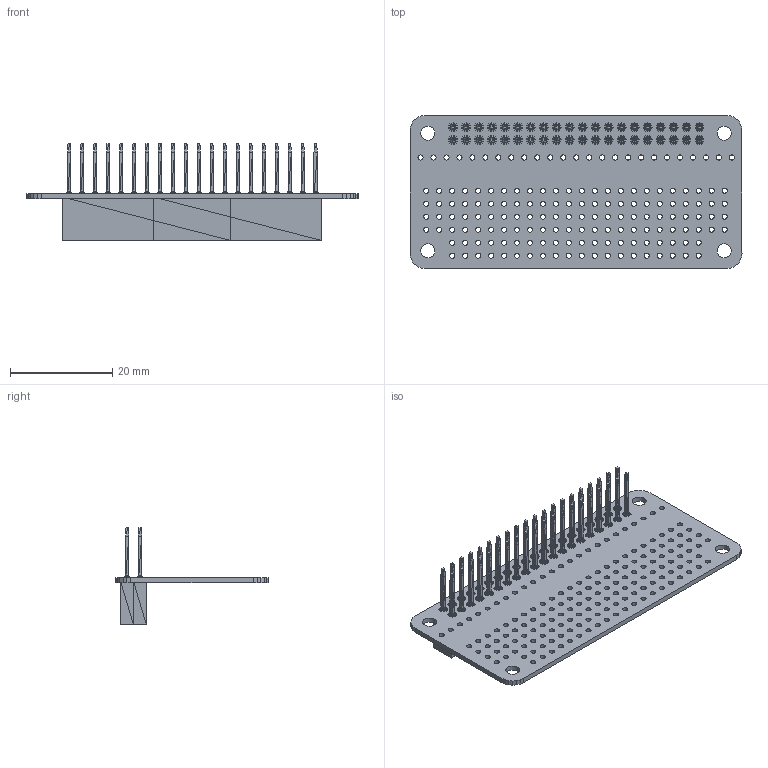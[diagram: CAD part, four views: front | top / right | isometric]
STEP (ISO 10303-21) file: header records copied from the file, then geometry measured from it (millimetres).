
FILE_DESCRIPTION(/* description */ (''),/* implementation_level */ '2;1');
FILE_NAME(/* name */ 'C:/Users/andrew/Desktop/3D Models/breakout-pi-zero-1.0.step',/* time_stamp */ '2018-02-10T15:29:12+00:00',/* author */ ('and101'),/* organization */ (''),/* preprocessor_version */ 'ST-DEVELOPER v16.13',/* originating_system */ 'Autodesk Translation Framework v6.5.0.72',/* authorisation */ '');
FILE_SCHEMA (('AUTOMOTIVE_DESIGN { 1 0 10303 214 3 1 1 }'));
Products named in the file (3): breakout-pi-zero-1.0; Board_breakout-pi-zero-1; 40_way_header
Assembly tree (2 placements, depth 2):
  breakout-pi-zero-1.0
    Board_breakout-pi-zero-1
    40_way_header
Bounding box: 65 x 30 x 18.97 mm (x, y, z)
Volume: 4658.4 mm3; surface area: 9061.2 mm2
Topology: 88 solids, 88 shells, 23388 faces, 35840 edges, 12628 vertices
Faces by surface type: plane 23183, cylinder 205
Full cylindrical faces by diameter (mm): 1 x201, 2.75 x4
Entity records: 465263 total; most frequent: DIRECTION 83446, CARTESIAN_POINT 71861, ORIENTED_EDGE 71680, EDGE_CURVE 35840, LINE 35020, VECTOR 35020, AXIS2_PLACEMENT_3D 24213, EDGE_LOOP 23798
